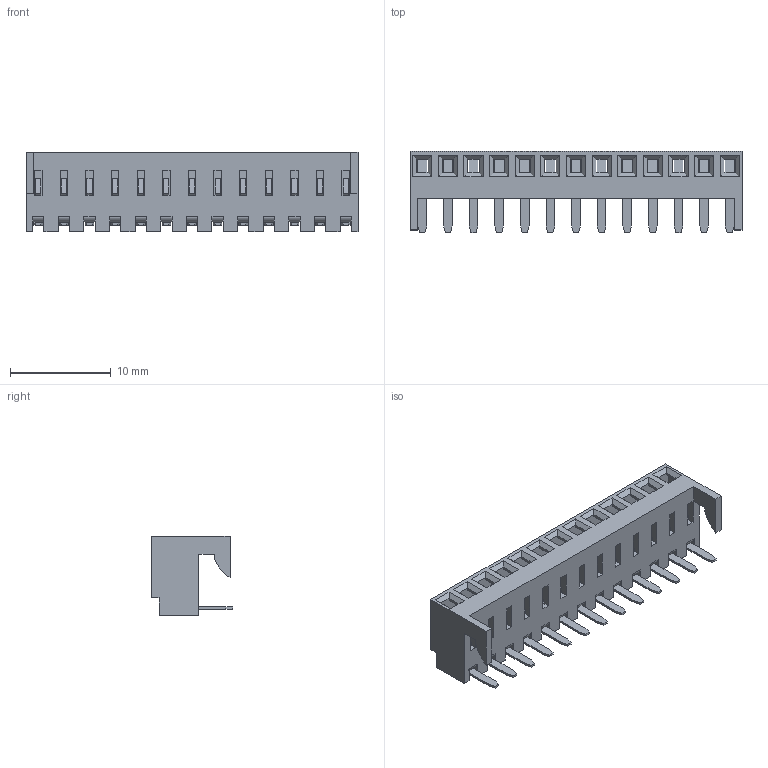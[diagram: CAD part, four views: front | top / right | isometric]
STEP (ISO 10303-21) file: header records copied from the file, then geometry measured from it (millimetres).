
FILE_DESCRIPTION((''),'2;1');
FILE_NAME('022152136','2014-10-13T',('me'),(''),'PRO/ENGINEER BY PARAMETRIC TECHNOLOGY CORPORATION, 2011490','PRO/ENGINEER BY PARAMETRIC TECHNOLOGY CORPORATION, 2011490','');
FILE_SCHEMA(('CONFIG_CONTROL_DESIGN'));
Length unit declared in the file: inch
Products named in the file (1): 022152136
Bounding box: 32.92 x 8.05 x 7.87 mm (x, y, z)
Volume: 491.3 mm3; surface area: 1832.8 mm2
Topology: 1 solids, 1 shells, 611 faces, 1734 edges, 1138 vertices
Faces by surface type: plane 490, cylinder 121
Entity records: 19644 total; most frequent: CARTESIAN_POINT 3459, ORIENTED_EDGE 3416, DIRECTION 3228, EDGE_CURVE 1708, VECTOR 1466, LINE 1466, VERTEX_POINT 1112, AXIS2_PLACEMENT_3D 881
